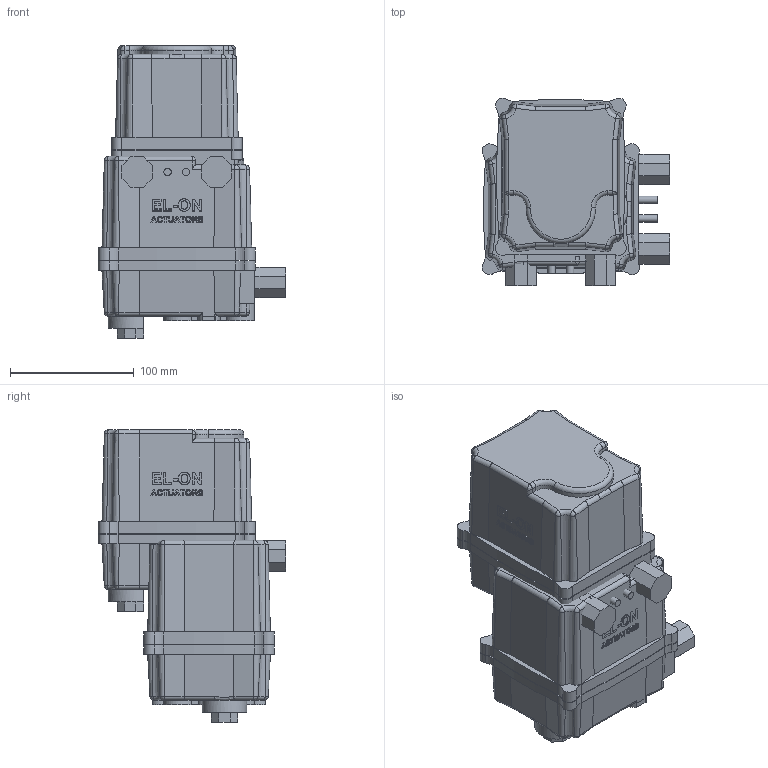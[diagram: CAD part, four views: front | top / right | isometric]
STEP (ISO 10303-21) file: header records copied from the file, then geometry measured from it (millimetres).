
FILE_DESCRIPTION( ( 'Unknown' ), '1' );
FILE_NAME( 'J:/Muud/ROOTSI BPS 3D vidinad/Kuulkraanid/Roostevaba kuulkraanid/Ball valve BPS 2420/Ball valve with electric actuator BPS/STEP formaat/BPS 2420010E ball valve DN10.stp', 'Unknown', ( 'Unknown' ), ( 'Unknown' ), 'PSStep 10.1', 'Unknown', ' ' );
FILE_SCHEMA( ( 'AUTOMOTIVE_DESIGN { 1 0 10303 214 1 1 1 1 }' ) );
Length unit declared in the file: millimetre
Products named in the file (4): Assem1; BPS 2420010 ball valve DN10; BPS 8005058 electric actuator DN40-100
Bounding box: 151.5 x 151.5 x 236.3 mm (x, y, z)
Volume: 3057780.9 mm3; surface area: 274640.5 mm2
Topology: 6 solids, 6 shells, 1306 faces, 3350 edges, 2178 vertices
Faces by surface type: plane 584, cylinder 314, extrusion 190, bspline 114, cone 82, torus 22
Full cylindrical faces by diameter (mm): 4.134 x16, 4.917 x8, 6 x28, 6.647 x8, 10 x2, 14.95 x4, 21 x2, 29 x2, 31 x2
Entity records: 33047 total; most frequent: CARTESIAN_POINT 13104, ORIENTED_EDGE 3124, DIRECTION 2578, EDGE_CURVE 1562, VERTEX_POINT 1065, VECTOR 880, AXIS2_PLACEMENT_3D 849, EDGE_LOOP 805
